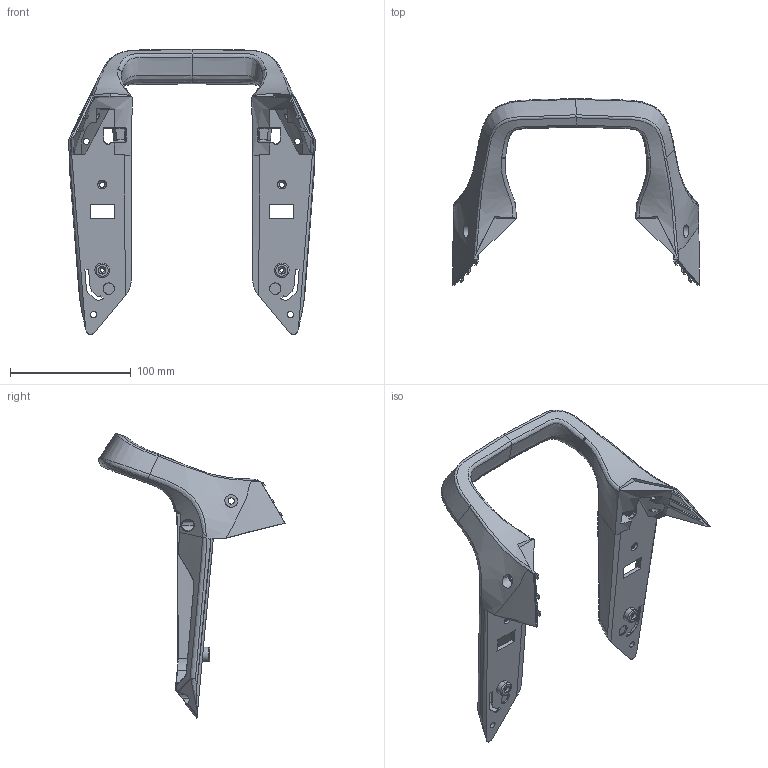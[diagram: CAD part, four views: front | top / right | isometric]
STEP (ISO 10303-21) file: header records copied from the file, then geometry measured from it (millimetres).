
FILE_DESCRIPTION((''),'2;1');
FILE_NAME('P60004','2025-07-09T20:29:24',('Administrator'),(''),'CREO PARAMETRIC BY PTC INC, 2023073','CREO PARAMETRIC BY PTC INC, 2023073','');
FILE_SCHEMA(('CONFIG_CONTROL_DESIGN'));
Products named in the file (1): P60004
Bounding box: 204.5 x 154.35 x 236.08 mm (x, y, z)
Volume: 350280.3 mm3; surface area: 93066.6 mm2
Topology: 1 solids, 1 shells, 463 faces, 1227 edges, 767 vertices
Faces by surface type: bspline 221, plane 129, cylinder 48, extrusion 41, cone 16, sphere 4, torus 4
Entity records: 40726 total; most frequent: CARTESIAN_POINT 31437, ORIENTED_EDGE 2452, EDGE_CURVE 1226, DIRECTION 1049, B_SPLINE_CURVE_WITH_KNOTS 815, VERTEX_POINT 767, EDGE_LOOP 497, FACE_OUTER_BOUND 463
